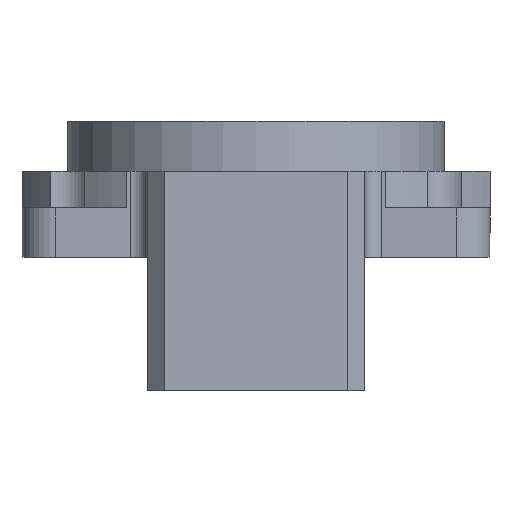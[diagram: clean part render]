
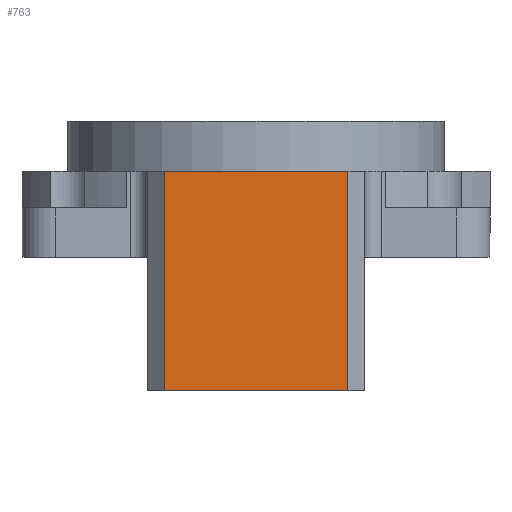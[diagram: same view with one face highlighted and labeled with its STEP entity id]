
A CAD part, front view. The second image highlights one B-rep face of the part: STEP entity #763.
In plain terms, the highlighted planar face has unit normal (0, -1, 0).
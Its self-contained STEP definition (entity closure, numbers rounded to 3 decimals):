
#383 = DIRECTION ( 'NONE',  ( 0., 0., -1. ) ) ;
#663 = VECTOR ( 'NONE', #1975, 1000. ) ;
#763 = ADVANCED_FACE ( 'NONE', ( #2063 ), #3713, .F. ) ;
#1060 = ORIENTED_EDGE ( 'NONE', *, *, #3050, .F. ) ;
#1139 = CARTESIAN_POINT ( 'NONE',  ( 55., -206.5, 81.5 ) ) ;
#1343 = CARTESIAN_POINT ( 'NONE',  ( -55., -206.5, 51.5 ) ) ;
#1508 = LINE ( 'NONE', #1139, #4683 ) ;
#1567 = CARTESIAN_POINT ( 'NONE',  ( -55., -206.5, -80. ) ) ;
#1784 = ORIENTED_EDGE ( 'NONE', *, *, #3165, .T. ) ;
#1820 = CARTESIAN_POINT ( 'NONE',  ( -55., -206.5, 81.5 ) ) ;
#1972 = AXIS2_PLACEMENT_3D ( 'NONE', #1820, #2608, #4492 ) ;
#1975 = DIRECTION ( 'NONE',  ( 1., 0., 0. ) ) ;
#2063 = FACE_OUTER_BOUND ( 'NONE', #3359, .T. ) ;
#2148 = DIRECTION ( 'NONE',  ( -1., 0., 0. ) ) ;
#2279 = ORIENTED_EDGE ( 'NONE', *, *, #4231, .F. ) ;
#2299 = LINE ( 'NONE', #3891, #663 ) ;
#2608 = DIRECTION ( 'NONE',  ( 0., 1., 0. ) ) ;
#2667 = CARTESIAN_POINT ( 'NONE',  ( 55., -206.5, -80. ) ) ;
#2949 = VECTOR ( 'NONE', #383, 1000. ) ;
#3050 = EDGE_CURVE ( 'NONE', #4428, #4092, #3598, .T. ) ;
#3165 = EDGE_CURVE ( 'NONE', #3869, #4092, #3422, .T. ) ;
#3278 = CARTESIAN_POINT ( 'NONE',  ( 55., -206.5, -80. ) ) ;
#3299 = EDGE_CURVE ( 'NONE', #3869, #4393, #2299, .T. ) ;
#3359 = EDGE_LOOP ( 'NONE', ( #3374, #1784, #1060, #2279 ) ) ;
#3374 = ORIENTED_EDGE ( 'NONE', *, *, #3299, .F. ) ;
#3418 = VECTOR ( 'NONE', #2148, 1000. ) ;
#3422 = LINE ( 'NONE', #4874, #2949 ) ;
#3598 = LINE ( 'NONE', #3278, #3418 ) ;
#3713 = PLANE ( 'NONE',  #1972 ) ;
#3869 = VERTEX_POINT ( 'NONE', #1343 ) ;
#3891 = CARTESIAN_POINT ( 'NONE',  ( -55., -206.5, 51.5 ) ) ;
#4092 = VERTEX_POINT ( 'NONE', #1567 ) ;
#4129 = DIRECTION ( 'NONE',  ( 0., 0., -1. ) ) ;
#4231 = EDGE_CURVE ( 'NONE', #4393, #4428, #1508, .T. ) ;
#4393 = VERTEX_POINT ( 'NONE', #4559 ) ;
#4428 = VERTEX_POINT ( 'NONE', #2667 ) ;
#4492 = DIRECTION ( 'NONE',  ( -1., 0., 0. ) ) ;
#4559 = CARTESIAN_POINT ( 'NONE',  ( 55., -206.5, 51.5 ) ) ;
#4683 = VECTOR ( 'NONE', #4129, 1000. ) ;
#4874 = CARTESIAN_POINT ( 'NONE',  ( -55., -206.5, 81.5 ) ) ;
